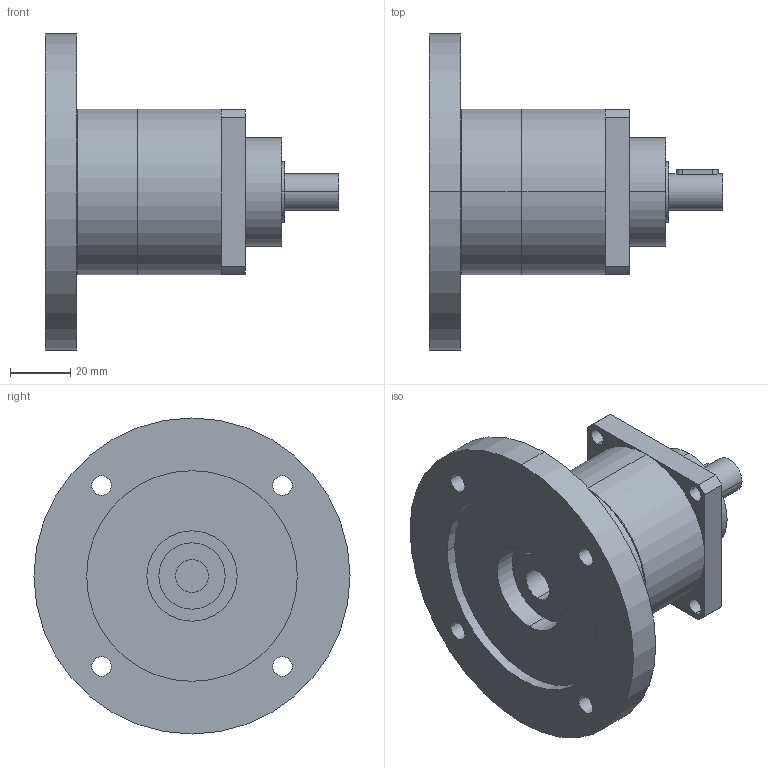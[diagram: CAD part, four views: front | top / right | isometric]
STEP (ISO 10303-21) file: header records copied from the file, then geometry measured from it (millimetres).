
FILE_DESCRIPTION(('CoCreate Modeling STEP Export'),'2;1');
FILE_NAME('GPT55_ig-3-4-5-7-10_12_B5A_11_P05.stp','2014-08-25T14:31:13',(''),(''),'CoCreate Modeling STEP processor for AP214 (Solid Model)','CoCreate Modeling 16.00C 25-Feb-2009 (C) Parametric Technology GmbH','');
FILE_SCHEMA(('AUTOMOTIVE_DESIGN { 1 0 10303 214 1 1 1 1 }'));
Length unit declared in the file: millimetre
Products named in the file (2): GPT55_ig-3-4-5-7-10_12_B5A_11_P05
Assembly tree (1 placements, depth 2):
  GPT55_ig-3-4-5-7-10_12_B5A_11_P05
    GPT55_ig-3-4-5-7-10_12_B5A_11_P05
Bounding box: 97.5 x 105 x 105 mm (x, y, z)
Volume: 221933.8 mm3; surface area: 37866.3 mm2
Topology: 1 solids, 1 shells, 71 faces, 179 edges, 120 vertices
Faces by surface type: cylinder 44, plane 23, cone 4
Entity records: 2263 total; most frequent: CARTESIAN_POINT 664, ORIENTED_EDGE 358, DIRECTION 278, EDGE_CURVE 179, VERTEX_POINT 120, AXIS2_PLACEMENT_3D 104, EDGE_LOOP 97, FACE_OUTER_BOUND 71
